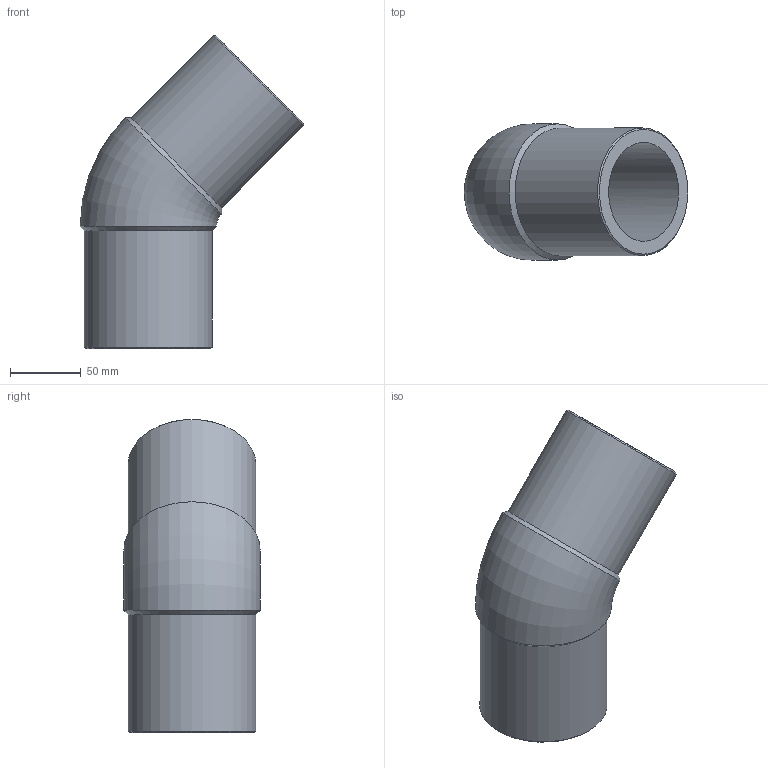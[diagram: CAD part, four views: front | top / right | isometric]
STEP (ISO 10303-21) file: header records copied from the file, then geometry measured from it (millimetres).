
FILE_DESCRIPTION(/* description */ ('Unknown'),/* implementation_level */ '2;1');
FILE_NAME(/* name */ 'G4P090G',/* time_stamp */ '2022-01-20T15:21:24+01:00',/* author */ ('Unknown'),/* organization */ ('Unknown'),/* preprocessor_version */ 'ST-DEVELOPER v18.1',/* originating_system */ 'Solid Edge',/* authorisation */ 'Unknown');
FILE_SCHEMA (('AUTOMOTIVE_DESIGN {1 0 10303 214 3 1 1}'));
Length unit declared in the file: millimetre
Products named in the file (1): G4P090G
Bounding box: 157.6 x 96 x 220.6 mm (x, y, z)
Volume: 601826.4 mm3; surface area: 116582 mm2
Topology: 1 solids, 1 shells, 12 faces, 30 edges, 20 vertices
Faces by surface type: cone 4, cylinder 4, plane 2, torus 2
Full cylindrical faces by diameter (mm): 69.8 x2, 90 x2
Entity records: 326 total; most frequent: CARTESIAN_POINT 60, DIRECTION 52, ORIENTED_EDGE 34, AXIS2_PLACEMENT_3D 26, EDGE_LOOP 23, FACE_BOUND 23, EDGE_CURVE 17, VERTEX_POINT 16
